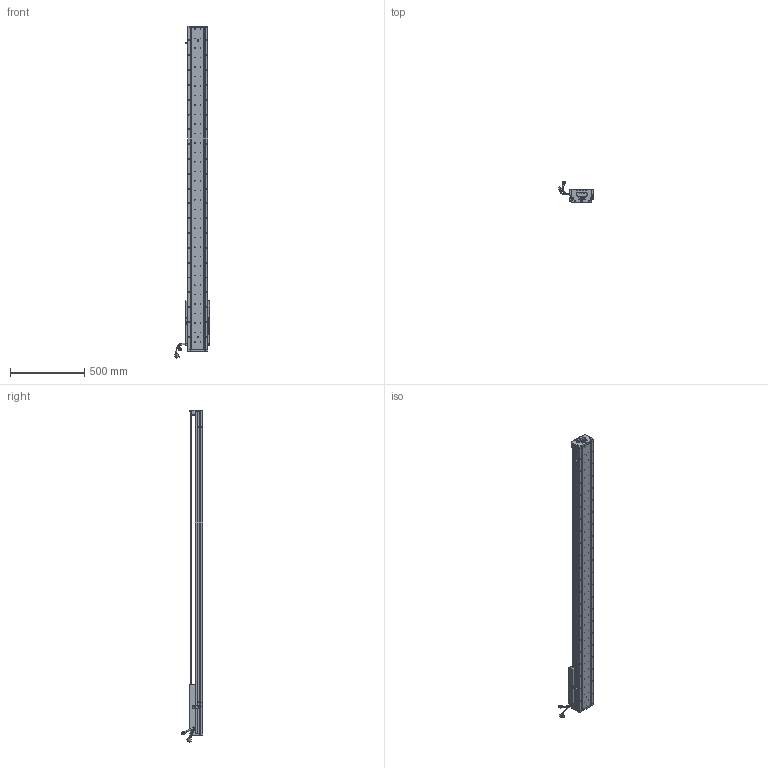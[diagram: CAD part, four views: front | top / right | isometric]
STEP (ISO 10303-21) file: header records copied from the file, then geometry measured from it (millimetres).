
FILE_DESCRIPTION (( 'STEP AP203' ), '1' );
FILE_NAME ('Z4-RY140D-1-L500-B-K.SLDASM_1800.step', '2021-05-17T08:17:35', ( '盈信电脑' ), ( '东莞市道滘镇水果街19号' ), 'SwSTEP 2.0', 'SolidWorks 2016', '' );
FILE_SCHEMA (( 'CONFIG_CONTROL_DESIGN' ));
Length unit declared in the file: millimetre
Products named in the file (36): 140蚥薯蝶輸; HARNESS-Part-2; 140-Z-臏賑輸盄裔(21遴); SCREW-M1.6; Z4-RY140-L500直线电机模组底座_1800; Z4-RY140-L500詩湍100mm遵_1800; 榋妏寠巭燃_暯_M2_2; PBU_SHEET; SCALE; 覜茼ん672; SHIELDPLATE; SCREW-M1.6-3; Z-RY140感应器672光电感应片; HARNESS-Part-1; SCREW-M1.7-1; 詩湍狟揤裔; SCREW-M1.6-1; SEAL; SEAL-Part-1; SCALE-Part-1; Z4-RY140D-1-L500-B-K.SLDASM_1800; Z-140詩湍傷裔啣; Z4-RY140圉猾敕臏賑輸(21遴); COVER; SCREW-M1.6-2; SCALE-Part-2; LABEL; COVER-Part-1; SCREW-M1.7; HOLDER0; 140雄赽晤鎢ん堤盄; 080黍杅芛假蚾釱21遴; HARNESS; PSLH080_PSLF2; LABEL-Part-1; 詩湍奻揤裔
Assembly tree (41 placements, depth 4):
  Z4-RY140D-1-L500-B-K.SLDASM_1800
    Z4-RY140-L500直线电机模组底座_1800
    Z-RY140感应器672光电感应片
    Z4-RY140圉猾敕臏賑輸(21遴)
    覜茼ん672  x3
    Z4-RY140-L500詩湍100mm遵_1800
    PSLH080_PSLF2
      SCALE
        SCALE-Part-1
        SCALE-Part-2
      HARNESS
        HARNESS-Part-1
        HARNESS-Part-2
      LABEL
        LABEL-Part-1
      COVER
        COVER-Part-1
      SEAL
        SEAL-Part-1
      榋妏寠巭燃_暯_M2_2
      SHIELDPLATE
      SCREW-M1.7
      SCREW-M1.7-1
      PBU_SHEET
      SCREW-M1.6
      SCREW-M1.6-1
      SCREW-M1.6-2
      SCREW-M1.6-3
      HOLDER0
    080黍杅芛假蚾釱21遴
    140-Z-臏賑輸盄裔(21遴)
    Z-140詩湍傷裔啣  x2
    詩湍狟揤裔  x2
    詩湍奻揤裔  x2
    140蚥薯蝶輸  x2
    140雄赽晤鎢ん堤盄
Bounding box: 239.84 x 143.88 x 2240.87 mm (x, y, z)
Volume: 7543474.2 mm3; surface area: 1940006.9 mm2
Topology: 36 solids, 36 shells, 3794 faces, 10240 edges, 6481 vertices
Faces by surface type: cylinder 1994, plane 1300, cone 378, torus 69, bspline 53
Entity records: 118116 total; most frequent: CARTESIAN_POINT 32467, ORIENTED_EDGE 17448, DIRECTION 16448, EDGE_CURVE 8724, AXIS2_PLACEMENT_3D 6110, VERTEX_POINT 5649, LINE 4228, VECTOR 4228
